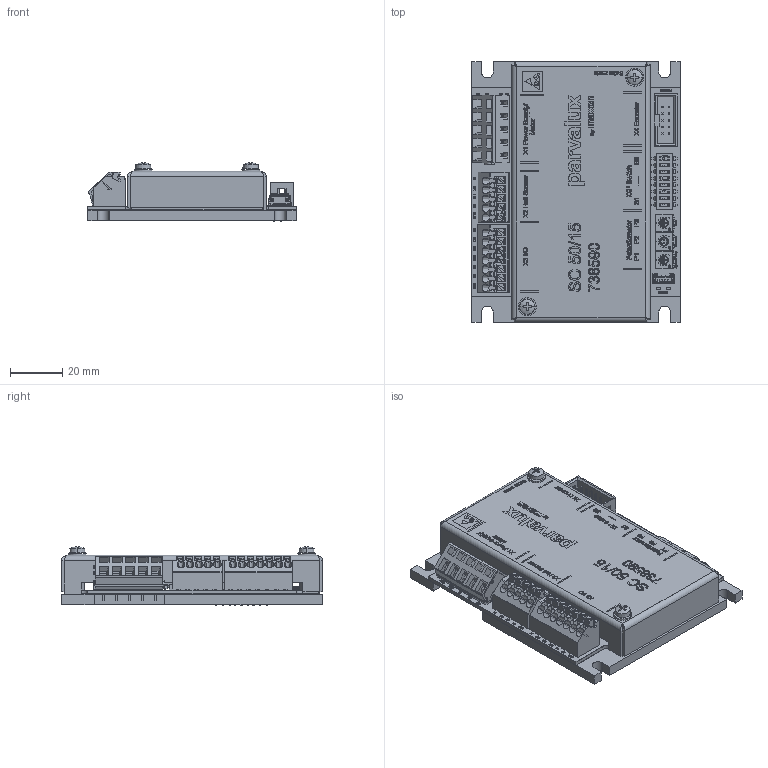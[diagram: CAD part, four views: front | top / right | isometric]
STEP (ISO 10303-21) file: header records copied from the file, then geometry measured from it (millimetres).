
FILE_DESCRIPTION((''),'2;1');
FILE_NAME('SC_50_15_ASM','2025-07-16T16:26:58',('MMAGROIN'),(''),'CREO PARAMETRIC BY PTC INC, 2022484','CREO PARAMETRIC BY PTC INC, 2022484','');
FILE_SCHEMA(('CONFIG_CONTROL_DESIGN','SHAPE_APPEARANCE_LAYERS_GROUPS'));
Products named in the file (196): SC_50_15_PCB; 8040_0001_03_ASM; SC_50_15_LOETST_T; SC_50_15_LOETST_B; LMLP07B7MR22DTAS; DMT8008SPS-13; SRN8040TA-331M; LPATTERN4_8_; LPATTERN4_15_; LPATTERN3_19_; BOSS-EXTRUDE2_1_; LPATTERN4_10_; LPATTERN3_21_; LPATTERN4_9_; BOSS-EXTRUDE3_2_; LPATTERN3_3_; LPATTERN3_16_; LPATTERN4_13_; LPATTERN4_20_; LPATTERN3_10_; LPATTERN4_11_; LPATTERN4_17_; LPATTERN4_12_; LPATTERN3_7_; LPATTERN4_6_; LPATTERN4_3_; LPATTERN3_15_; LPATTERN3_14_; CUT-EXTRUDE4; LPATTERN3_8_; BOSS-EXTRUDE2_2_; LPATTERN4_22_; LPATTERN4_14_; LPATTERN3_12_; LPATTERN4_7_; LPATTERN4_5_; BOSS-EXTRUDE4; LPATTERN3_2_; LPATTERN3_11_; LPATTERN4_18_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
Assembly tree (207 placements, depth 4):
  SC_50_15_ASM
    SC_50_15_PCB
    8040_0001_03_ASM
    SC_50_15_LOETST_T
    SC_50_15_LOETST_B
    LMLP07B7MR22DTAS  x3
    DMT8008SPS-13  x6
    SRN8040TA-331M
    DRV8353RHRGZT_ASM
      RGZ48A_ASM
        LPATTERN4_8_
        LPATTERN4_15_
        LPATTERN3_19_
        BOSS-EXTRUDE2_1_
        LPATTERN4_10_
        LPATTERN3_21_
        LPATTERN4_9_
        BOSS-EXTRUDE3_2_
        LPATTERN3_3_
        LPATTERN3_16_
        LPATTERN4_13_
        LPATTERN4_20_
        LPATTERN3_10_
        LPATTERN4_11_
        LPATTERN4_17_
        LPATTERN4_12_
        LPATTERN3_7_
        LPATTERN4_6_
        LPATTERN4_3_
        LPATTERN3_15_
        LPATTERN3_14_
        CUT-EXTRUDE4
        LPATTERN3_8_
        BOSS-EXTRUDE2_2_
        LPATTERN4_22_
        LPATTERN4_14_
        LPATTERN3_12_
        LPATTERN4_7_
        LPATTERN4_5_
        BOSS-EXTRUDE4
        LPATTERN3_2_
        LPATTERN3_11_
        LPATTERN4_18_
        LPATTERN3_17_
        LPATTERN4_4_
        LPATTERN4_16_
        LPATTERN4_2_
        LPATTERN3_9_
        LPATTERN3_18_
        LPATTERN4_1_
        LPATTERN3_22_
        BOSS-EXTRUDE3_1_
        BOSS-EXTRUDE5
        LPATTERN3_6_
        LPATTERN3_20_
        LPATTERN4_21_
        LPATTERN3_1_
        LPATTERN3_5_
        LPATTERN3_4_
        LPATTERN3_13_
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Bounding box: 80 x 100 x 22.43 mm (x, y, z)
Volume: 57155.3 mm3; surface area: 106979.9 mm2
Topology: 270 solids, 270 shells, 9950 faces, 27493 edges, 18166 vertices
Faces by surface type: plane 7136, extrusion 1522, cylinder 1118, bspline 68, cone 62, torus 28, sphere 16
Entity records: 409018 total; most frequent: CARTESIAN_POINT 73558, ORIENTED_EDGE 52710, DIRECTION 43280, PRESENTATION_STYLE_ASSIGNMENT 28154, STYLED_ITEM 26604, CURVE_STYLE 26355, EDGE_CURVE 26355, VECTOR 22304
